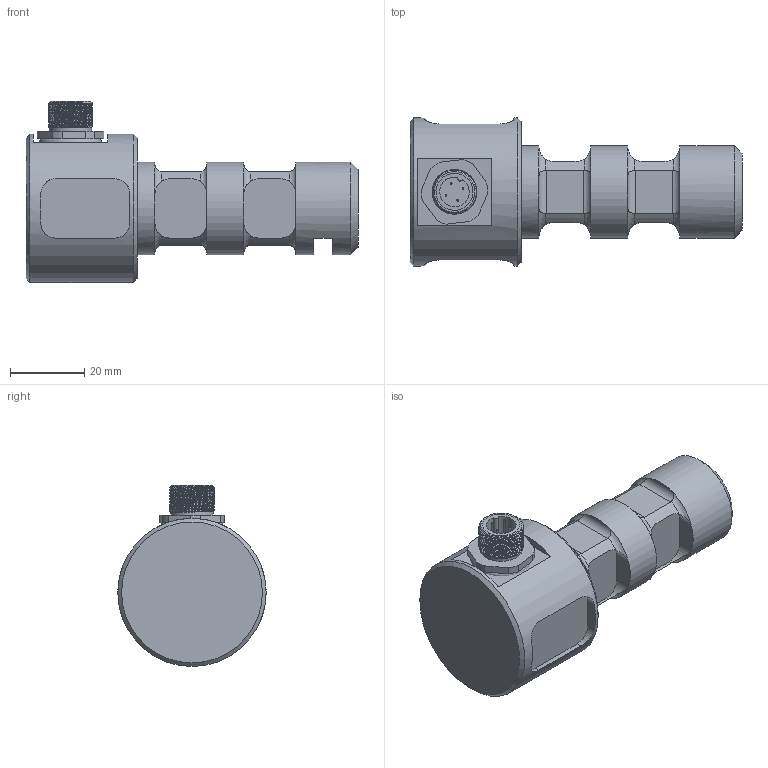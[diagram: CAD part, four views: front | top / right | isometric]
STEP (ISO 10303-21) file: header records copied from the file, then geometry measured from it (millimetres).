
FILE_DESCRIPTION(/* description */ ('Alibre Inc.'),/* implementation_level */ '2;1');
FILE_NAME(/* name */ 'export0',/* time_stamp */ '2014-04-03T09:35:22+02:00',/* author */ (''),/* organization */ (''),/* preprocessor_version */ 'ST-DEVELOPER v14',/* originating_system */ 'Alibre',/* authorisation */ '');
FILE_SCHEMA (('CONFIG_CONTROL_DESIGN'));
Length unit declared in the file: centimetre
Products named in the file (7): ID_1; ID_2; ID_3
Bounding box: 89.6 x 40 x 48.86 mm (x, y, z)
Volume: 59238.2 mm3; surface area: 17164 mm2
Topology: 9 solids, 9 shells, 380 faces, 893 edges, 570 vertices
Faces by surface type: plane 254, cylinder 79, bspline 23, torus 17, cone 7
Full cylindrical faces by diameter (mm): 0.5 x8, 8 x2, 10 x4, 11.5 x1, 13 x1, 14.376 x1, 25 x3, 40 x1
Entity records: 24787 total; most frequent: CARTESIAN_POINT 16444, ORIENTED_EDGE 1710, DIRECTION 1145, EDGE_CURVE 850, VERTEX_POINT 558, VECTOR 551, LINE 551, FACE_BOUND 457
